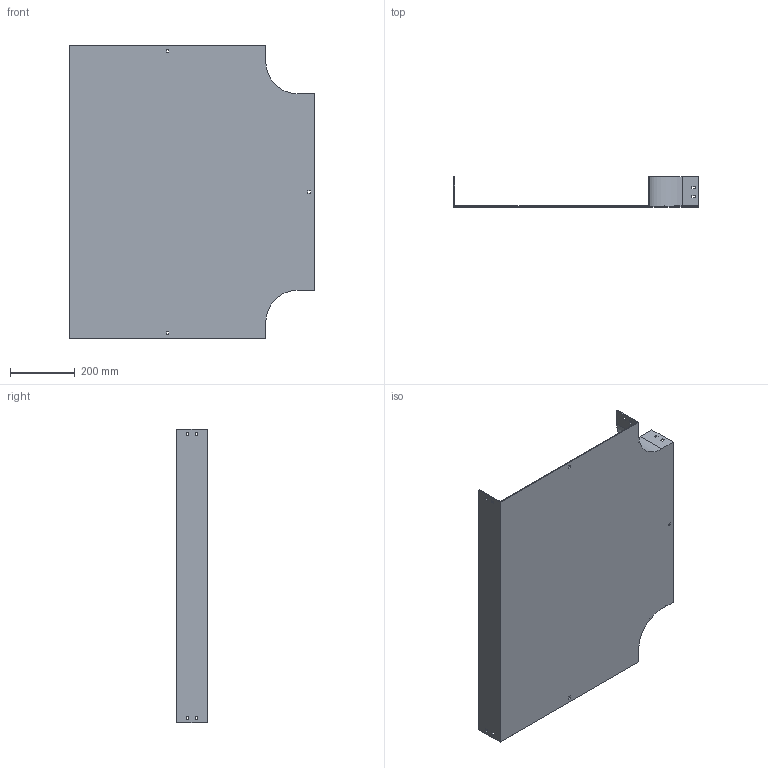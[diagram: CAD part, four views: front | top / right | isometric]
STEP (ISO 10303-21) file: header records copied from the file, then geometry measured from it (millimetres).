
FILE_DESCRIPTION (( 'STEP AP214' ), '1' );
FILE_NAME ('15B1I600.step', '2025-02-21T09:56:01', ( '' ), ( '' ), 'SwSTEP 2.0', 'SolidWorks 2023', '' );
FILE_SCHEMA (( 'AUTOMOTIVE_DESIGN' ));
Length unit declared in the file: millimetre
Products named in the file (1): 15B1I600
Bounding box: 754 x 92.5 x 904 mm (x, y, z)
Volume: 2683093.1 mm3; surface area: 1548124.1 mm2
Topology: 1 solids, 1 shells, 82 faces, 240 edges, 160 vertices
Faces by surface type: plane 78, cylinder 4
Entity records: 2755 total; most frequent: CARTESIAN_POINT 483, ORIENTED_EDGE 480, DIRECTION 414, EDGE_CURVE 240, LINE 232, VECTOR 232, VERTEX_POINT 160, EDGE_LOOP 112
